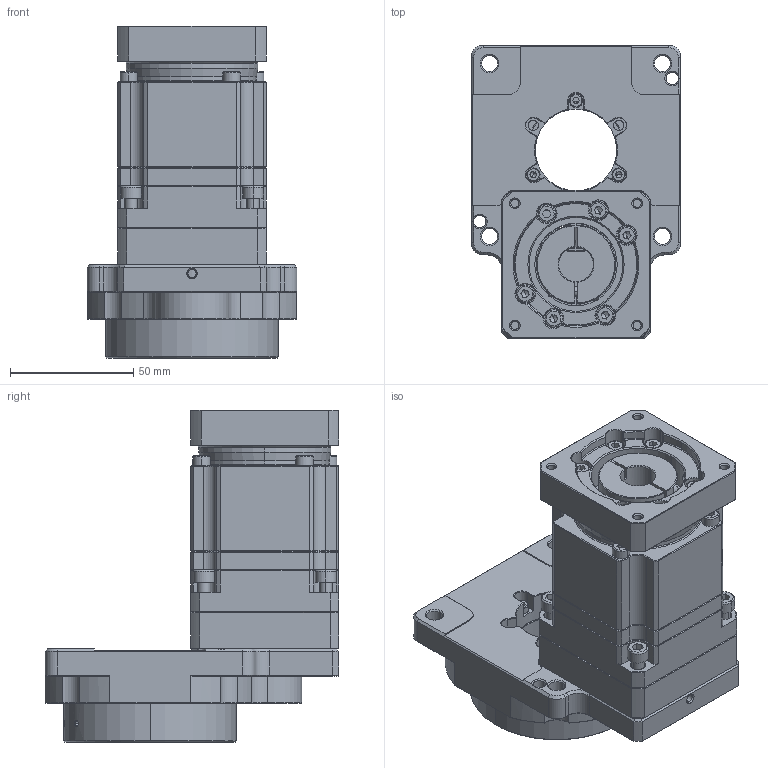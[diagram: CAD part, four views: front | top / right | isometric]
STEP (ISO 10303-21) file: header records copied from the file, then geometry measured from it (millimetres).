
FILE_DESCRIPTION (( 'STEP AP203' ), '1' );
FILE_NAME ('HRG85A(85-05ÖÐ¿Õ).STEP', '2020-06-24T05:39:20', ( '' ), ( '' ), 'SwSTEP 2.0', 'SolidWorks 2012', '' );
FILE_SCHEMA (( 'CONFIG_CONTROL_DESIGN' ));
Length unit declared in the file: millimetre
Products named in the file (1): HRG85A(85-05笢諾)
Bounding box: 85 x 119 x 134.5 mm (x, y, z)
Surface area: 83677.3 mm2 (no closed solid volume)
Topology: 0 solids, 46 shells, 967 faces, 2891 edges, 1903 vertices
Faces by surface type: plane 382, cone 280, cylinder 232, torus 49, bspline 24
Entity records: 35625 total; most frequent: CARTESIAN_POINT 10141, DIRECTION 5396, ORIENTED_EDGE 4815, EDGE_CURVE 2863, AXIS2_PLACEMENT_3D 1978, VERTEX_POINT 1903, VECTOR 1440, LINE 1440
